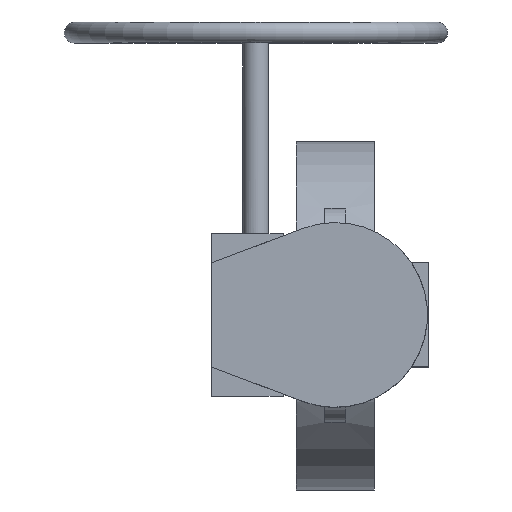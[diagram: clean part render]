
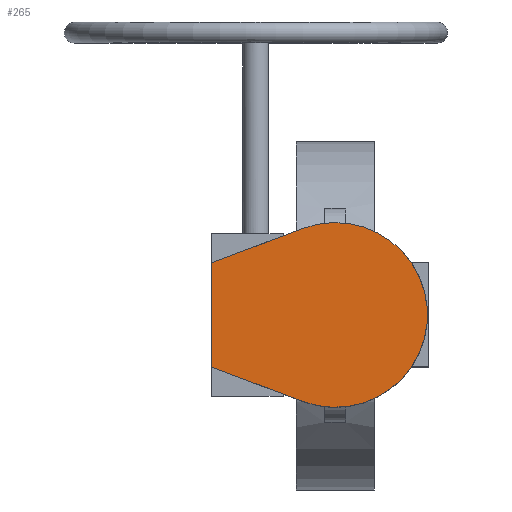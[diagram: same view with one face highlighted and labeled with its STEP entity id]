
A CAD part, top view. The second image highlights one B-rep face of the part: STEP entity #265.
In plain terms, the highlighted planar face has unit normal (0, 0, 1).
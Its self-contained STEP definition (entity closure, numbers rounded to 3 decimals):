
#265=ADVANCED_FACE('',(#7578),#7580,.T.);
#7578=FACE_BOUND('',#7579,.T.);
#7579=EDGE_LOOP('',(#13350,#13351,#13352,#13353));
#7580=PLANE('',#7581);
#7581=AXIS2_PLACEMENT_3D('',#7582,#7583,#7584);
#7582=CARTESIAN_POINT('',(0.,0.,314.));
#7583=DIRECTION('',(0.,0.,1.));
#7584=DIRECTION('',(0.,1.,0.));
#13350=ORIENTED_EDGE('',*,*,#18007,.T.);
#13351=ORIENTED_EDGE('',*,*,#18003,.T.);
#13352=ORIENTED_EDGE('',*,*,#17996,.T.);
#13353=ORIENTED_EDGE('',*,*,#17991,.T.);
#17991=EDGE_CURVE('',#20410,#20408,#20411,.T.);
#17996=EDGE_CURVE('',#20418,#20410,#20419,.T.);
#18003=EDGE_CURVE('',#20431,#20418,#20432,.T.);
#18007=EDGE_CURVE('',#20408,#20431,#20437,.T.);
#20408=VERTEX_POINT('',#24428);
#20410=VERTEX_POINT('',#24432);
#20411=LINE('',#24433,#24434);
#20418=VERTEX_POINT('',#24450);
#20419=LINE('',#24451,#24452);
#20431=VERTEX_POINT('',#24477);
#20432=LINE('',#24478,#24479);
#20437=CIRCLE('',#24491,71.);
#24428=CARTESIAN_POINT('',(-25.099,-66.416,314.));
#24432=CARTESIAN_POINT('',(-95.,-40.,314.));
#24433=CARTESIAN_POINT('',(-95.,-40.,314.));
#24434=VECTOR('',#24435,1.);
#24435=DIRECTION('',(0.935,-0.354,0.));
#24450=CARTESIAN_POINT('',(-95.,40.,314.));
#24451=CARTESIAN_POINT('',(-95.,40.,314.));
#24452=VECTOR('',#24453,1.);
#24453=DIRECTION('',(0.,-1.,0.));
#24477=CARTESIAN_POINT('',(-25.099,66.416,314.));
#24478=CARTESIAN_POINT('',(-25.099,66.416,314.));
#24479=VECTOR('',#24480,1.);
#24480=DIRECTION('',(-0.935,-0.354,0.));
#24491=AXIS2_PLACEMENT_3D('',#24492,#24493,#24494);
#24492=CARTESIAN_POINT('',(0.,0.,314.));
#24493=DIRECTION('',(0.,0.,1.));
#24494=DIRECTION('',(-0.354,-0.935,0.));
